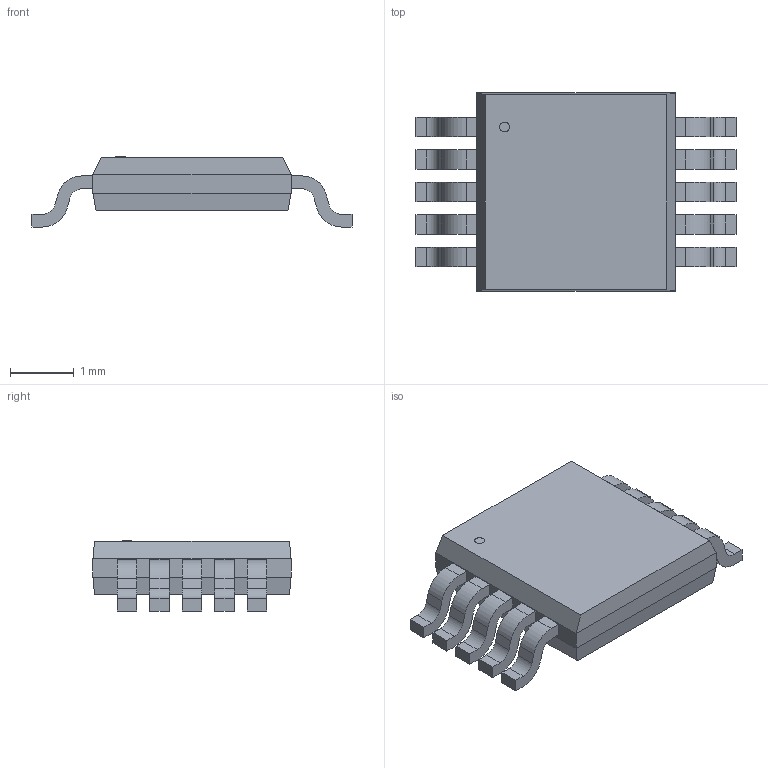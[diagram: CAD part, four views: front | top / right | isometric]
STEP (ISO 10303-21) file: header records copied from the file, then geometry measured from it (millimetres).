
FILE_DESCRIPTION(('STEP AP214'),'1');
FILE_NAME('TSSOP10_3P1X3P1_NXP','2026-07-11T02:39:14',(''),(''),'','','');
FILE_SCHEMA(('AUTOMOTIVE_DESIGN'));
Length unit declared in the file: millimetre
Products named in the file (1): product
Bounding box: 5 x 3.1 x 1.09 mm (x, y, z)
Volume: 8.6 mm3; surface area: 42.4 mm2
Topology: 12 solids, 12 shells, 157 faces, 391 edges, 258 vertices
Faces by surface type: plane 116, cylinder 41
Full cylindrical faces by diameter (mm): 0.155 x1
Entity records: 4597 total; most frequent: DIRECTION 790, ORIENTED_EDGE 780, CARTESIAN_POINT 459, EDGE_CURVE 390, LINE 308, VECTOR 308, VERTEX_POINT 258, AXIS2_PLACEMENT_3D 241
